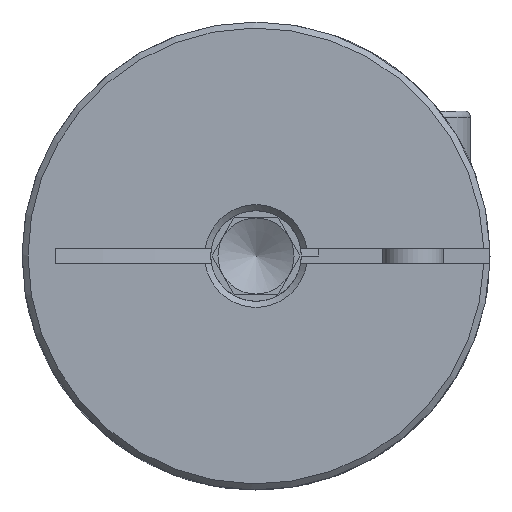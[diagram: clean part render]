
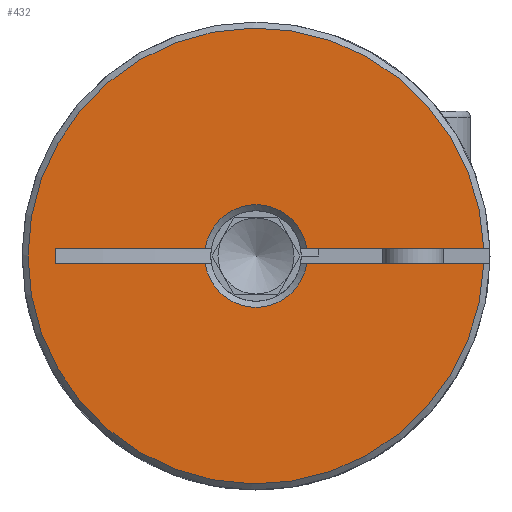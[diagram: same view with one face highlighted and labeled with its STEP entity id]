
A CAD part, left-side view. The second image highlights one B-rep face of the part: STEP entity #432.
In plain terms, the highlighted planar face has unit normal (-1, 0, 0).
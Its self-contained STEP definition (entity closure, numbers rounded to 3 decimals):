
#432 = ADVANCED_FACE( 'NONE', ( #943 ), #944, .F. );
#943 = FACE_OUTER_BOUND( '', #1563, .T. );
#944 = PLANE( '', #1564 );
#1563 = EDGE_LOOP( '', ( #2380, #2381, #2382, #2383, #2384, #2385, #2386, #2387 ) );
#1564 = AXIS2_PLACEMENT_3D( '', #2388, #2389, #2390 );
#2380 = ORIENTED_EDGE( '', *, *, #2976, .T. );
#2381 = ORIENTED_EDGE( '', *, *, #2999, .T. );
#2382 = ORIENTED_EDGE( '', *, *, #3100, .T. );
#2383 = ORIENTED_EDGE( '', *, *, #3202, .T. );
#2384 = ORIENTED_EDGE( '', *, *, #3167, .F. );
#2385 = ORIENTED_EDGE( '', *, *, #3203, .T. );
#2386 = ORIENTED_EDGE( '', *, *, #3055, .F. );
#2387 = ORIENTED_EDGE( '', *, *, #3204, .T. );
#2388 = CARTESIAN_POINT( '', ( 0., 1.5, 0. ) );
#2389 = DIRECTION( '', ( 1., 0., 0. ) );
#2390 = DIRECTION( '', ( 0., 1., 0. ) );
#2976 = EDGE_CURVE( 'NONE', #3383, #3381, #3384, .T. );
#2999 = EDGE_CURVE( 'NONE', #3381, #3419, #3421, .T. );
#3055 = EDGE_CURVE( 'NONE', #3510, #3511, #3512, .F. );
#3100 = EDGE_CURVE( 'NONE', #3419, #3584, #3585, .T. );
#3167 = EDGE_CURVE( 'NONE', #3687, #3689, #3690, .F. );
#3202 = EDGE_CURVE( 'NONE', #3584, #3689, #3735, .F. );
#3203 = EDGE_CURVE( 'NONE', #3687, #3511, #3736, .T. );
#3204 = EDGE_CURVE( 'NONE', #3510, #3383, #3737, .T. );
#3381 = VERTEX_POINT( 'NONE', #3941 );
#3383 = VERTEX_POINT( 'NONE', #3946 );
#3384 = LINE( '', #3947, #3948 );
#3419 = VERTEX_POINT( 'NONE', #3983 );
#3421 = CIRCLE( '', #3988, 1.7 );
#3510 = VERTEX_POINT( 'NONE', #4082 );
#3511 = VERTEX_POINT( 'NONE', #4083 );
#3512 = LINE( '', #4084, #4085 );
#3584 = VERTEX_POINT( 'NONE', #4171 );
#3585 = LINE( '', #4172, #4173 );
#3687 = VERTEX_POINT( 'NONE', #4302 );
#3689 = VERTEX_POINT( 'NONE', #4307 );
#3690 = LINE( '', #4308, #4309 );
#3735 = CIRCLE( '', #4360, 7.55 );
#3736 = CIRCLE( '', #4361, 1.7 );
#3737 = LINE( '', #4362, #4363 );
#3941 = CARTESIAN_POINT( '', ( 0., 1.682, 0.25 ) );
#3946 = CARTESIAN_POINT( '', ( 0., 6.624, 0.25 ) );
#3947 = CARTESIAN_POINT( '', ( 0., 1.5, 0.25 ) );
#3948 = VECTOR( '', #4682, 1000. );
#3983 = CARTESIAN_POINT( '', ( 0., -1.682, 0.25 ) );
#3988 = AXIS2_PLACEMENT_3D( '', #4725, #4726, #4727 );
#4082 = CARTESIAN_POINT( '', ( 0., 6.624, -0.25 ) );
#4083 = CARTESIAN_POINT( '', ( 0., 1.682, -0.25 ) );
#4084 = CARTESIAN_POINT( '', ( 0., -4.5, -0.25 ) );
#4085 = VECTOR( '', #4823, 1000. );
#4171 = CARTESIAN_POINT( '', ( 0., -7.546, 0.25 ) );
#4172 = CARTESIAN_POINT( '', ( 0., 1.5, 0.25 ) );
#4173 = VECTOR( '', #4886, 1000. );
#4302 = CARTESIAN_POINT( '', ( 0., -1.682, -0.25 ) );
#4307 = CARTESIAN_POINT( '', ( 0., -7.546, -0.25 ) );
#4308 = CARTESIAN_POINT( '', ( 0., -4.5, -0.25 ) );
#4309 = VECTOR( '', #4975, 1000. );
#4360 = AXIS2_PLACEMENT_3D( '', #5015, #5016, #5017 );
#4361 = AXIS2_PLACEMENT_3D( '', #5018, #5019, #5020 );
#4362 = CARTESIAN_POINT( '', ( 0., 6.624, -0.25 ) );
#4363 = VECTOR( '', #5021, 1000. );
#4682 = DIRECTION( '', ( 0., -1., 0. ) );
#4725 = CARTESIAN_POINT( '', ( 0., 0., 0. ) );
#4726 = DIRECTION( '', ( 1., 0., 0. ) );
#4727 = DIRECTION( '', ( 0., 0., -1. ) );
#4823 = DIRECTION( '', ( 0., 1., 0. ) );
#4886 = DIRECTION( '', ( 0., -1., 0. ) );
#4975 = DIRECTION( '', ( 0., 1., 0. ) );
#5015 = CARTESIAN_POINT( '', ( 0., 0., 0. ) );
#5016 = DIRECTION( '', ( 1., 0., 0. ) );
#5017 = DIRECTION( '', ( 0., 0., -1. ) );
#5018 = CARTESIAN_POINT( '', ( 0., 0., 0. ) );
#5019 = DIRECTION( '', ( 1., 0., 0. ) );
#5020 = DIRECTION( '', ( 0., 0., -1. ) );
#5021 = DIRECTION( '', ( 0., 0., 1. ) );
